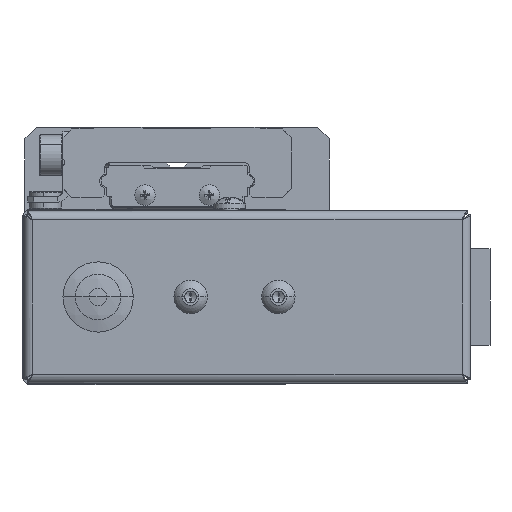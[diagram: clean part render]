
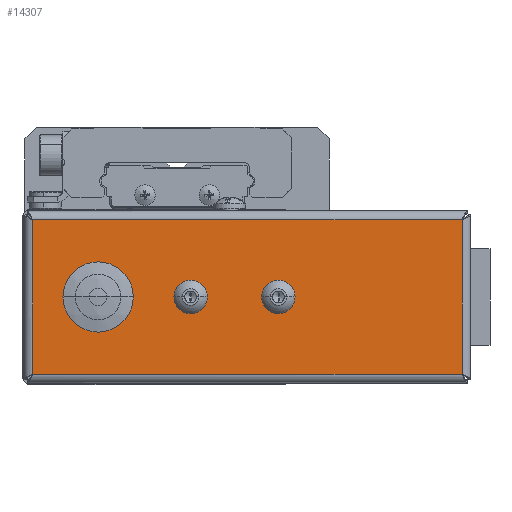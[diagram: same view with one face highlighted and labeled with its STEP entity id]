
A CAD part, left-side view. The second image highlights one B-rep face of the part: STEP entity #14307.
In plain terms, the highlighted planar face has unit normal (-1, 0, 0) as drawn and (0, 0, -1) by its records, which use the part's own axes.
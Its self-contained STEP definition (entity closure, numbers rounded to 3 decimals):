
#21 = ORIENTED_EDGE ( 'NONE', *, *, #23626, .T. ) ;
#1567 = CARTESIAN_POINT ( 'NONE',  ( 0.571, 27.9, -0.5 ) ) ;
#1604 = CARTESIAN_POINT ( 'NONE',  ( 1.5, 0.571, -0.5 ) ) ;
#4748 = VERTEX_POINT ( 'NONE', #13386 ) ;
#4860 = VECTOR ( 'NONE', #36918, 1000. ) ;
#5000 = CARTESIAN_POINT ( 'NONE',  ( 0., 0., -0.5 ) ) ;
#10307 = FACE_OUTER_BOUND ( 'NONE', #30898, .T. ) ;
#10789 = DIRECTION ( 'NONE',  ( -1., 0., 0. ) ) ;
#10995 = LINE ( 'NONE', #33399, #4860 ) ;
#13386 = CARTESIAN_POINT ( 'NONE',  ( 1.5, 27.9, -0.5 ) ) ;
#13722 = DIRECTION ( 'NONE',  ( 0., 1., 0. ) ) ;
#14133 = CARTESIAN_POINT ( 'NONE',  ( 74.9, 1.5, -0.5 ) ) ;
#14181 = CARTESIAN_POINT ( 'NONE',  ( 74.9, 27.9, -0.5 ) ) ;
#14307 = ADVANCED_FACE ( 'NONE', ( #10307 ), #20482, .T. ) ;
#14826 = VERTEX_POINT ( 'NONE', #37408 ) ;
#16952 = VERTEX_POINT ( 'NONE', #14181 ) ;
#17410 = VERTEX_POINT ( 'NONE', #14133 ) ;
#17666 = EDGE_CURVE ( 'NONE', #16952, #17410, #10995, .T. ) ;
#20482 = PLANE ( 'NONE',  #26131 ) ;
#21491 = ORIENTED_EDGE ( 'NONE', *, *, #17666, .T. ) ;
#22799 = CARTESIAN_POINT ( 'NONE',  ( 75.829, 1.5, -0.5 ) ) ;
#22817 = DIRECTION ( 'NONE',  ( 0., 0., -1. ) ) ;
#23452 = LINE ( 'NONE', #22799, #33675 ) ;
#23626 = EDGE_CURVE ( 'NONE', #17410, #14826, #23452, .T. ) ;
#23726 = VECTOR ( 'NONE', #13722, 1000. ) ;
#24568 = ORIENTED_EDGE ( 'NONE', *, *, #36159, .T. ) ;
#26131 = AXIS2_PLACEMENT_3D ( 'NONE', #5000, #22817, #32210 ) ;
#27461 = LINE ( 'NONE', #1604, #23726 ) ;
#27834 = ORIENTED_EDGE ( 'NONE', *, *, #30512, .T. ) ;
#28568 = DIRECTION ( 'NONE',  ( 1., 0., 0. ) ) ;
#30512 = EDGE_CURVE ( 'NONE', #14826, #4748, #27461, .T. ) ;
#30898 = EDGE_LOOP ( 'NONE', ( #21491, #21, #27834, #24568 ) ) ;
#32210 = DIRECTION ( 'NONE',  ( -1., 0., 0. ) ) ;
#33399 = CARTESIAN_POINT ( 'NONE',  ( 74.9, 28.829, -0.5 ) ) ;
#33675 = VECTOR ( 'NONE', #10789, 1000. ) ;
#34365 = VECTOR ( 'NONE', #28568, 1000. ) ;
#35303 = LINE ( 'NONE', #1567, #34365 ) ;
#36159 = EDGE_CURVE ( 'NONE', #4748, #16952, #35303, .T. ) ;
#36918 = DIRECTION ( 'NONE',  ( 0., -1., 0. ) ) ;
#37408 = CARTESIAN_POINT ( 'NONE',  ( 1.5, 1.5, -0.5 ) ) ;
